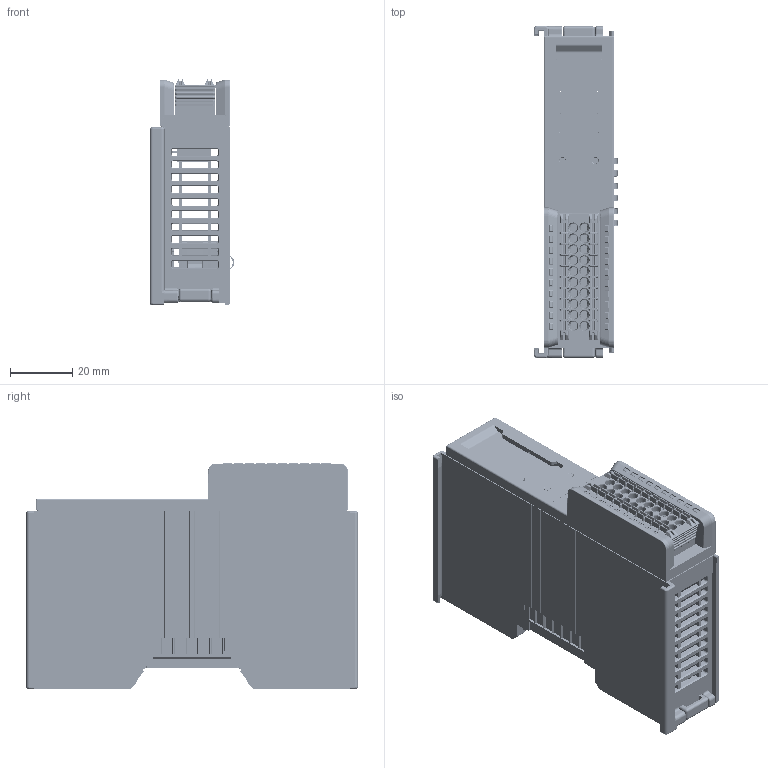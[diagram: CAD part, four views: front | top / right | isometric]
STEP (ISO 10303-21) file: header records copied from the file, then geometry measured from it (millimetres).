
FILE_DESCRIPTION((''),'2;1');
FILE_NAME('ASM0001_ASM','2024-05-22T14:19:56',('董'),(''),'CREO PARAMETRIC BY PTC INC, 2020033','CREO PARAMETRIC BY PTC INC, 2020033','');
FILE_SCHEMA(('CONFIG_CONTROL_DESIGN'));
Products named in the file (3): PRO_XB6S_IO_2; 15EDGKNHGB-3_5-20P-1Y-00A_Z_H_-; ASM0001_ASM
Assembly tree (2 placements, depth 2):
  ASM0001_ASM
    PRO_XB6S_IO_2
    15EDGKNHGB-3_5-20P-1Y-00A_Z_H_-
Bounding box: 27.05 x 106.4 x 72.49 mm (x, y, z)
Volume: 46409.3 mm3; surface area: 66044.7 mm2
Topology: 41 solids, 52 shells, 9479 faces, 26175 edges, 16542 vertices
Faces by surface type: plane 5447, cylinder 2596, bspline 791, torus 238, cone 214, sphere 116, extrusion 77
Entity records: 353788 total; most frequent: CARTESIAN_POINT 120132, ORIENTED_EDGE 52012, DIRECTION 43481, EDGE_CURVE 26009, VECTOR 18057, LINE 17980, VERTEX_POINT 16542, AXIS2_PLACEMENT_3D 12712
